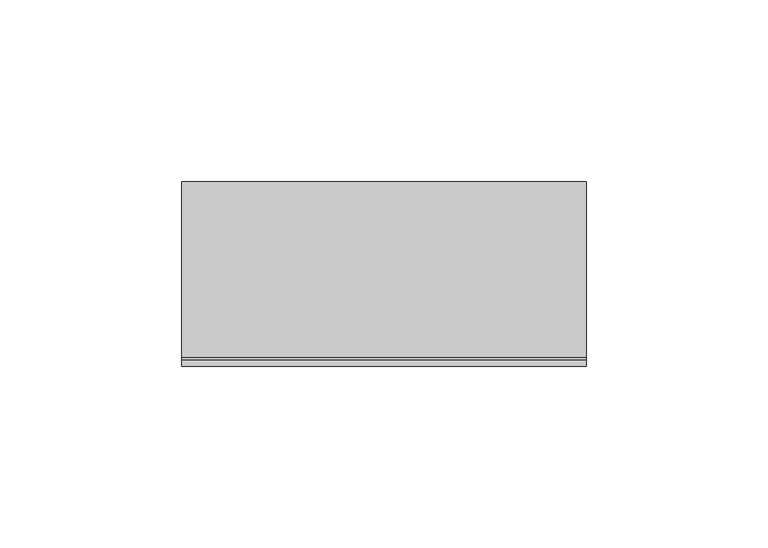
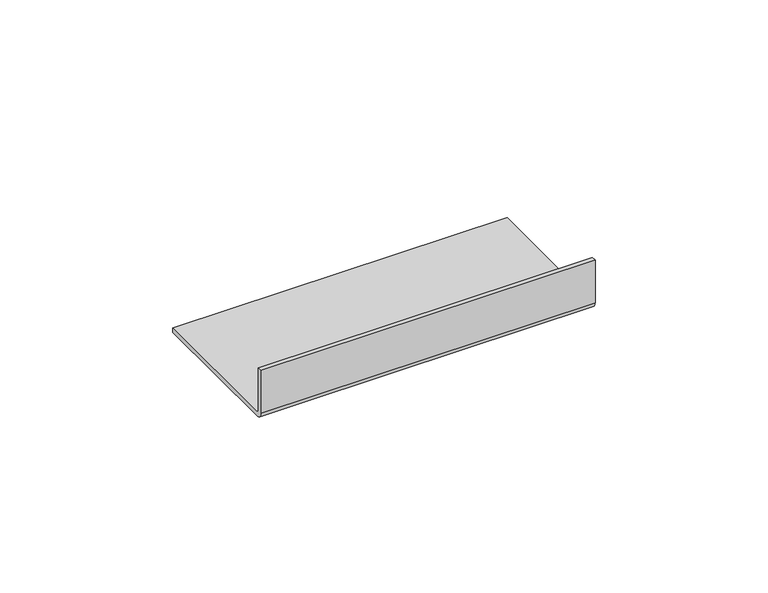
"""IFC4 building model written with IfcOpenShell, lengths in millimetres: proxy geometry, Device_Plate-Resource_Series-Wiremold-RFB4_CI_1 : Blank, CIH/LT-B."""

from ifc_helpers import new_model, si_unit, frame, origin, place, context, project, spatial, polyline, circle_curve, source, transform, mapped, element, save
from ifc_brep_helpers import plane_surface, cylinder_surface, revolved_surface, advanced_brep


def electrical_fixtures_925f7ab6(model_context):
    return source(origin(), model_context, "Body", "AdvancedBrep", [
        advanced_brep(
        [(55.9435, -23.876, 2.3114), (55.9435, -23.876, 17.3260178), (55.9435, -25.4508, 17.3260178), (55.9435, -25.4508, 2.2288272), (55.9435, -23.2219728, 0.0), (55.9435, 25.4, 0.0), (55.9435, 25.4, 1.524), (55.9435, -23.0886, 1.524), (-55.5625, -23.876, 2.3114), (-55.5625, -23.0886, 1.524), (-55.5625, 25.4, 1.524), (-55.5625, 25.4, 0.0), (-55.5625, -23.2224493, 0.0), (-55.5625, -25.4508, 2.2288272), (-55.5625, -25.4508, 17.3260178), (-55.5625, -23.876, 17.3260178)],
        [
            (0, 1),
            (1, 2),
            (2, 3),
            (3, 4, circle_curve(frame((55.9435, -23.2219728, 2.2288272), z_axis=(1.0, 0.0, 0.0), x_axis=(0.0, 0.0, 1.0)), 2.2288272)),
            (4, 5),
            (5, 6),
            (6, 7),
            (7, 0, circle_curve(frame((55.9435, -23.0886, 2.3114), z_axis=(-1.0, 0.0, 0.0), x_axis=(0.0, 0.0, 1.0)), 0.7874)),
            (8, 9, circle_curve(frame((-55.5625, -23.0886, 2.3114), z_axis=(1.0, 0.0, 0.0), x_axis=(0.0, 0.0, 1.0)), 0.7874)),
            (9, 10),
            (10, 11),
            (11, 12),
            (12, 13, circle_curve(frame((-55.5625, -23.2219728, 2.2288272), z_axis=(-1.0, 0.0, 0.0), x_axis=(0.0, 0.0, 1.0)), 2.2288272)),
            (13, 14),
            (14, 15),
            (15, 8),
            (7, 9),
            (8, 0),
            (6, 10),
            (5, 11),
            (4, 12),
            (3, 13),
            (2, 14),
            (1, 15),
        ],
        [
            plane_surface(frame((55.9435, -23.876, 17.3260178), z_axis=(1.0, 0.0, 0.0), x_axis=(0.0, 0.0, 1.0))),
            plane_surface(frame((-55.5625, -23.876, 17.3260178), z_axis=(-1.0, 0.0, 0.0), x_axis=(0.0, 0.0, -1.0))),
            revolved_surface(polyline([(-55.5625, -23.0886, 3.0987999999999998), (55.9435, -23.0886, 3.0987999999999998)]), (-55.5625, -23.0886, 2.3114), (-1.0, 0.0, 0.0)),
            plane_surface(frame((55.9435, 25.4, 1.524), z_axis=(0.0, 0.0, 1.0), x_axis=(-1.0, 0.0, 0.0))),
            plane_surface(frame((55.9435, 25.4, 0.0), z_axis=(0.0, 1.0, 0.0), x_axis=(-1.0, 0.0, 0.0))),
            plane_surface(frame((55.9435, -23.2224493, 0.0), z_axis=(0.0, 0.0, -1.0), x_axis=(-1.0, 0.0, 0.0))),
            cylinder_surface(frame((-55.5625, -23.2219728, 2.2288272), z_axis=(1.0, 0.0, 0.0), x_axis=(0.0, 0.0, 1.0)), 2.2288272),
            plane_surface(frame((55.9435, -25.4508, 17.3260178), z_axis=(0.0, -1.0, 0.0), x_axis=(-1.0, 0.0, 0.0))),
            plane_surface(frame((55.9435, -23.876, 17.3260178), z_axis=(0.0, 0.0, 1.0), x_axis=(-1.0, 0.0, 0.0))),
            plane_surface(frame((55.9435, -23.876, 2.3114), z_axis=(0.0, 1.0, 0.0), x_axis=(-1.0, 0.0, 0.0))),
        ],
        [
            (0, [[1, 2, 3, 4, 5, 6, 7, 8]]),
            (1, [[9, 10, 11, 12, 13, 14, 15, 16]]),
            (2, [[-8, 17, -9, 18]]),
            (3, [[-7, 19, -10, -17]]),
            (4, [[-6, 20, -11, -19]]),
            (5, [[-5, 21, -12, -20]]),
            (6, [[-4, 22, -13, -21]]),
            (7, [[-3, 23, -14, -22]]),
            (8, [[-2, 24, -15, -23]]),
            (9, [[-1, -18, -16, -24]]),
        ],
    ),
    ])


if __name__ == "__main__":
    model = new_model("IFC4")
    model_context = context("Model", 3, world=origin())
    ifc_project = project(units=[si_unit("LENGTHUNIT", "METRE", prefix="MILLI")], contexts=[model_context])
    site = spatial("IfcSite", under=ifc_project)
    building = spatial("IfcBuilding", under=site)
    placement = place(None, origin())
    electrical_fixtures_shape = electrical_fixtures_925f7ab6(model_context)
    element("IfcBuildingElementProxy", 1, Name="Device_Plate-Resource_Series-Wiremold-RFB4_CI_1 : Blank, CIH/LT-B", ObjectType="Device_Plate-Resource_Series-Wiremold-RFB4_CI_1 : Blank, CIH/LT-B", at=placement, inside=building, context=model_context, shape_type="MappedRepresentation", body=[
        mapped(electrical_fixtures_shape, transform((0.0, 0.0, 0.0), x_axis=(1.0, 0.0, 0.0), y_axis=(0.0, 1.0, 0.0), z_axis=(0.0, 0.0, 1.0))),
    ])
    save(model, "model.ifc")
